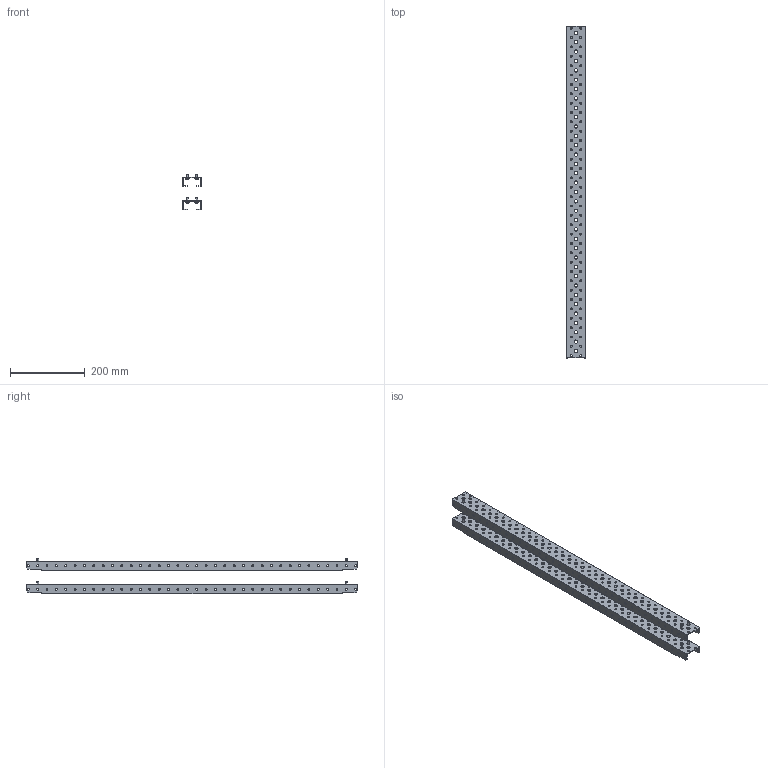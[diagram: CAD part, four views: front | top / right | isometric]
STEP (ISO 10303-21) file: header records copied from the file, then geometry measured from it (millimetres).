
FILE_DESCRIPTION (( 'STEP AP214' ), '1' );
FILE_NAME ('FO-00-PRM-1000 Ïðîôèëü ìîíòàæíûé 50?25 â øêàô 1000 ìì (2 øò.óïàê.).STEP', '2025-08-04T10:09:01', ( '' ), ( '' ), 'SwSTEP 2.0', 'SolidWorks 2023', '' );
FILE_SCHEMA (( 'AUTOMOTIVE_DESIGN' ));
Length unit declared in the file: millimetre
Products named in the file (3): FO-00-PRM-1000 Профиль монтажный 50×25 в шкаф 1000 мм (2 шт.упак.); Метизы M2.5 50×25; Профиль монтажный 50×25 в шкаф 1000 мм
Assembly tree (6 placements, depth 2):
  FO-00-PRM-1000 Профиль монтажный 50×25 в шкаф 1000 мм (2 шт.упак.)
    Профиль монтажный 50×25 в шкаф 1000 мм  x2
    Метизы M2.5 50×25  x4
Bounding box: 50 x 887 x 96.05 mm (x, y, z)
Volume: 385047.2 mm3; surface area: 405883.9 mm2
Topology: 10 solids, 10 shells, 920 faces, 2644 edges, 1760 vertices
Faces by surface type: cylinder 748, plane 156, torus 16
Entity records: 15467 total; most frequent: DIRECTION 2868, CARTESIAN_POINT 2523, ORIENTED_EDGE 2504, EDGE_CURVE 1252, AXIS2_PLACEMENT_3D 1179, VERTEX_POINT 834, EDGE_LOOP 790, CIRCLE 742
